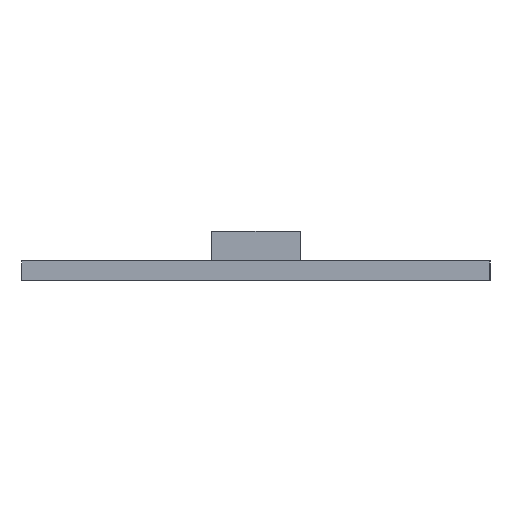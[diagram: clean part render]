
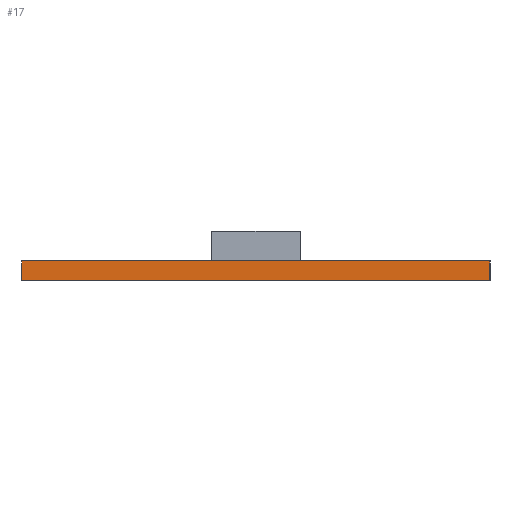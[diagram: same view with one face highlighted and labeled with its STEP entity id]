
A CAD part, left-side view. The second image highlights one B-rep face of the part: STEP entity #17.
In plain terms, the highlighted planar face has unit normal (-1, 0, 0).
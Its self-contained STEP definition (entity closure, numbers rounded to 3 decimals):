
#17 = ADVANCED_FACE('',(#18),#32,.F.);
#18 = FACE_BOUND('',#19,.F.);
#19 = EDGE_LOOP('',(#20,#55,#83,#111));
#20 = ORIENTED_EDGE('',*,*,#21,.F.);
#21 = EDGE_CURVE('',#22,#24,#26,.T.);
#22 = VERTEX_POINT('',#23);
#23 = CARTESIAN_POINT('',(-115.,-95.,0.));
#24 = VERTEX_POINT('',#25);
#25 = CARTESIAN_POINT('',(-115.,-95.,8.));
#26 = SURFACE_CURVE('',#27,(#31,#43),.PCURVE_S1.);
#27 = LINE('',#28,#29);
#28 = CARTESIAN_POINT('',(-115.,-95.,0.));
#29 = VECTOR('',#30,1.);
#30 = DIRECTION('',(0.,0.,1.));
#31 = PCURVE('',#32,#37);
#32 = PLANE('',#33);
#33 = AXIS2_PLACEMENT_3D('',#34,#35,#36);
#34 = CARTESIAN_POINT('',(-115.,-95.,0.));
#35 = DIRECTION('',(1.,0.,0.));
#36 = DIRECTION('',(0.,0.,1.));
#37 = DEFINITIONAL_REPRESENTATION('',(#38),#42);
#38 = LINE('',#39,#40);
#39 = CARTESIAN_POINT('',(0.,0.));
#40 = VECTOR('',#41,1.);
#41 = DIRECTION('',(1.,0.));
#42 = ( GEOMETRIC_REPRESENTATION_CONTEXT(2) 
PARAMETRIC_REPRESENTATION_CONTEXT() REPRESENTATION_CONTEXT('2D SPACE',''
  ) );
#43 = PCURVE('',#44,#49);
#44 = PLANE('',#45);
#45 = AXIS2_PLACEMENT_3D('',#46,#47,#48);
#46 = CARTESIAN_POINT('',(-115.,-95.,0.));
#47 = DIRECTION('',(0.,1.,0.));
#48 = DIRECTION('',(0.,0.,1.));
#49 = DEFINITIONAL_REPRESENTATION('',(#50),#54);
#50 = LINE('',#51,#52);
#51 = CARTESIAN_POINT('',(0.,0.));
#52 = VECTOR('',#53,1.);
#53 = DIRECTION('',(1.,0.));
#54 = ( GEOMETRIC_REPRESENTATION_CONTEXT(2) 
PARAMETRIC_REPRESENTATION_CONTEXT() REPRESENTATION_CONTEXT('2D SPACE',''
  ) );
#55 = ORIENTED_EDGE('',*,*,#56,.T.);
#56 = EDGE_CURVE('',#22,#57,#59,.T.);
#57 = VERTEX_POINT('',#58);
#58 = CARTESIAN_POINT('',(-115.,95.,0.));
#59 = SURFACE_CURVE('',#60,(#64,#71),.PCURVE_S1.);
#60 = LINE('',#61,#62);
#61 = CARTESIAN_POINT('',(-115.,-95.,0.));
#62 = VECTOR('',#63,1.);
#63 = DIRECTION('',(0.,1.,0.));
#64 = PCURVE('',#32,#65);
#65 = DEFINITIONAL_REPRESENTATION('',(#66),#70);
#66 = LINE('',#67,#68);
#67 = CARTESIAN_POINT('',(0.,0.));
#68 = VECTOR('',#69,1.);
#69 = DIRECTION('',(0.,-1.));
#70 = ( GEOMETRIC_REPRESENTATION_CONTEXT(2) 
PARAMETRIC_REPRESENTATION_CONTEXT() REPRESENTATION_CONTEXT('2D SPACE',''
  ) );
#71 = PCURVE('',#72,#77);
#72 = PLANE('',#73);
#73 = AXIS2_PLACEMENT_3D('',#74,#75,#76);
#74 = CARTESIAN_POINT('',(-115.,-95.,0.));
#75 = DIRECTION('',(0.,0.,1.));
#76 = DIRECTION('',(1.,0.,0.));
#77 = DEFINITIONAL_REPRESENTATION('',(#78),#82);
#78 = LINE('',#79,#80);
#79 = CARTESIAN_POINT('',(0.,0.));
#80 = VECTOR('',#81,1.);
#81 = DIRECTION('',(0.,1.));
#82 = ( GEOMETRIC_REPRESENTATION_CONTEXT(2) 
PARAMETRIC_REPRESENTATION_CONTEXT() REPRESENTATION_CONTEXT('2D SPACE',''
  ) );
#83 = ORIENTED_EDGE('',*,*,#84,.T.);
#84 = EDGE_CURVE('',#57,#85,#87,.T.);
#85 = VERTEX_POINT('',#86);
#86 = CARTESIAN_POINT('',(-115.,95.,8.));
#87 = SURFACE_CURVE('',#88,(#92,#99),.PCURVE_S1.);
#88 = LINE('',#89,#90);
#89 = CARTESIAN_POINT('',(-115.,95.,0.));
#90 = VECTOR('',#91,1.);
#91 = DIRECTION('',(0.,0.,1.));
#92 = PCURVE('',#32,#93);
#93 = DEFINITIONAL_REPRESENTATION('',(#94),#98);
#94 = LINE('',#95,#96);
#95 = CARTESIAN_POINT('',(0.,-190.));
#96 = VECTOR('',#97,1.);
#97 = DIRECTION('',(1.,0.));
#98 = ( GEOMETRIC_REPRESENTATION_CONTEXT(2) 
PARAMETRIC_REPRESENTATION_CONTEXT() REPRESENTATION_CONTEXT('2D SPACE',''
  ) );
#99 = PCURVE('',#100,#105);
#100 = PLANE('',#101);
#101 = AXIS2_PLACEMENT_3D('',#102,#103,#104);
#102 = CARTESIAN_POINT('',(-115.,95.,0.));
#103 = DIRECTION('',(0.,1.,0.));
#104 = DIRECTION('',(0.,0.,1.));
#105 = DEFINITIONAL_REPRESENTATION('',(#106),#110);
#106 = LINE('',#107,#108);
#107 = CARTESIAN_POINT('',(0.,0.));
#108 = VECTOR('',#109,1.);
#109 = DIRECTION('',(1.,0.));
#110 = ( GEOMETRIC_REPRESENTATION_CONTEXT(2) 
PARAMETRIC_REPRESENTATION_CONTEXT() REPRESENTATION_CONTEXT('2D SPACE',''
  ) );
#111 = ORIENTED_EDGE('',*,*,#112,.F.);
#112 = EDGE_CURVE('',#24,#85,#113,.T.);
#113 = SURFACE_CURVE('',#114,(#118,#125),.PCURVE_S1.);
#114 = LINE('',#115,#116);
#115 = CARTESIAN_POINT('',(-115.,-95.,8.));
#116 = VECTOR('',#117,1.);
#117 = DIRECTION('',(0.,1.,0.));
#118 = PCURVE('',#32,#119);
#119 = DEFINITIONAL_REPRESENTATION('',(#120),#124);
#120 = LINE('',#121,#122);
#121 = CARTESIAN_POINT('',(8.,0.));
#122 = VECTOR('',#123,1.);
#123 = DIRECTION('',(0.,-1.));
#124 = ( GEOMETRIC_REPRESENTATION_CONTEXT(2) 
PARAMETRIC_REPRESENTATION_CONTEXT() REPRESENTATION_CONTEXT('2D SPACE',''
  ) );
#125 = PCURVE('',#126,#131);
#126 = PLANE('',#127);
#127 = AXIS2_PLACEMENT_3D('',#128,#129,#130);
#128 = CARTESIAN_POINT('',(-115.,-95.,8.));
#129 = DIRECTION('',(0.,0.,1.));
#130 = DIRECTION('',(1.,0.,0.));
#131 = DEFINITIONAL_REPRESENTATION('',(#132),#136);
#132 = LINE('',#133,#134);
#133 = CARTESIAN_POINT('',(0.,0.));
#134 = VECTOR('',#135,1.);
#135 = DIRECTION('',(0.,1.));
#136 = ( GEOMETRIC_REPRESENTATION_CONTEXT(2) 
PARAMETRIC_REPRESENTATION_CONTEXT() REPRESENTATION_CONTEXT('2D SPACE',''
  ) );
